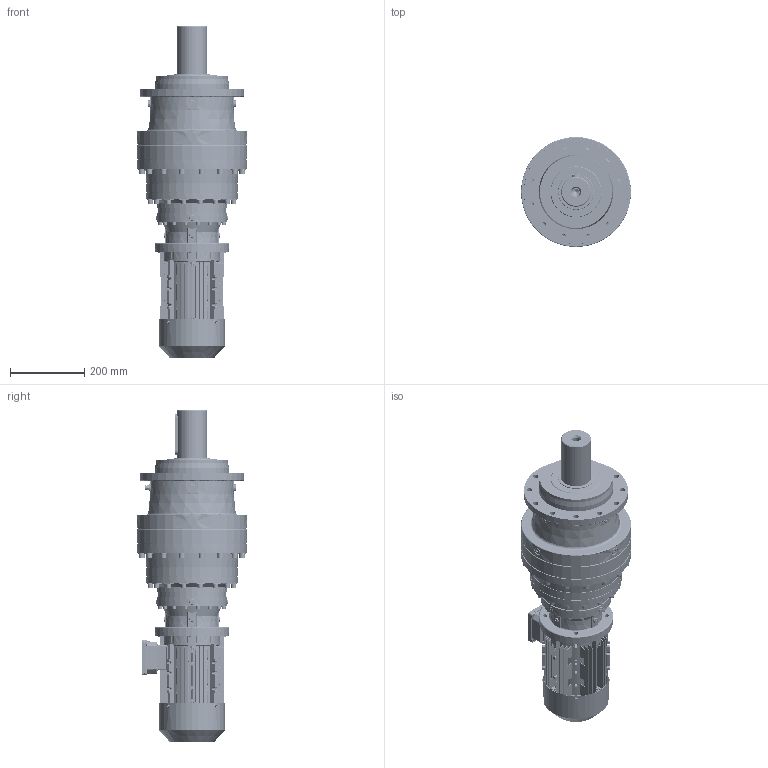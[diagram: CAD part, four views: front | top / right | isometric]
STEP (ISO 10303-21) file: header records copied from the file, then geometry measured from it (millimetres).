
FILE_DESCRIPTION (( 'STEP AP203' ), '1' );
FILE_NAME ('PNL_1903L-MX90L-4.STEP', '2019-05-10T13:20:30', ( '' ), ( '' ), 'SwSTEP 2.0', 'SolidWorks 2012', '' );
FILE_SCHEMA (( 'CONFIG_CONTROL_DESIGN' ));
Products named in the file (30): IE3 90L cable glandsM16_2; IE3 90L  oil seal_2; cross recessed pan head screws gb_GB_CROSS_SCREWS_TYPE1 M5X10-10  H type-N_2; cross recessed pan head screws gb_GB_CROSS_SCREWS_TYPE1 M4X5-5  H type-N_2; plain washers-n series-grade a gb_GB_FASTENER_WASHER_PWNA 4_2; circlips for shaft--type a large gb_GB_CONNECTING_PIECE_RING_RRA 19_2; IE3 90L grouding mark_2; hexagon socket head cap screws gb_GB_FASTENER_SCREWS_HSHCS M6X30-N_2; cross recessed pan head tapping screws gb_GB_CROSS_SCREWS_TYPE128 ST4.2X9.5 H C-N_2; hexagon flange head tapping screws gb_GB_SQUARE_AND_HEXAGON_TYPE137 ST4.2X9.5 F-N_2; IE3 90L flange_2; IE3 90L terminal box_2; IE3 90L terminal box cover_2; plain parallel keys_GB_CONNECTING_PIECE_KEYS_CSK 8X40_2; spring lock washers--normal type gb_GB_FASTENER_WASHER_SW 6_2; IE3 90L fan_2; IE3 90L rotor_2; IE3 90L fan cover_2; EK1903L_Varsayìlan; IE3 90L casing_2; FL5A_Varsayìlan; PNL_1903L_0_0_A09_B5_ML25A_FL5A_0_0_0_0_0_0_0_0_0_0_0_M1; P19_Varsayìlan; 1190B5_Varsayìlan; ML25A_Varsayìlan; MX3-90L_B5; PNL_1903L-MX90L-4; hexagon socket head cap screws gb_GB_FASTENER_SCREWS_HSHCS M6X40-N; hexagon nuts grade c gb_GB_FASTENER_NUT_SNC1 M6-N_2; IE3 90L flangeB5
Assembly tree (58 placements, depth 3):
  PNL_1903L-MX90L-4
    PNL_1903L_0_0_A09_B5_ML25A_FL5A_0_0_0_0_0_0_0_0_0_0_0_M1
      P19_Varsayìlan
      1190B5_Varsayìlan
      ML25A_Varsayìlan
      EK1903L_Varsayìlan
      FL5A_Varsayìlan
    MX3-90L_B5
      IE3 90L casing_2
      IE3 90L rotor_2
      IE3 90L fan_2
      IE3 90L fan cover_2
      plain parallel keys_GB_CONNECTING_PIECE_KEYS_CSK 8X40_2
      IE3 90L terminal box_2
      IE3 90L terminal box cover_2
      spring lock washers--normal type gb_GB_FASTENER_WASHER_SW 6_2  x8
      cross recessed pan head tapping screws gb_GB_CROSS_SCREWS_TYPE128 ST4.2X9.5 H C-N_2  x4
      hexagon flange head tapping screws gb_GB_SQUARE_AND_HEXAGON_TYPE137 ST4.2X9.5 F-N_2  x4
      hexagon socket head cap screws gb_GB_FASTENER_SCREWS_HSHCS M6X30-N_2  x4
      IE3 90L flange_2
      circlips for shaft--type a large gb_GB_CONNECTING_PIECE_RING_RRA 19_2
      IE3 90L grouding mark_2
      plain washers-n series-grade a gb_GB_FASTENER_WASHER_PWNA 4_2
      cross recessed pan head screws gb_GB_CROSS_SCREWS_TYPE1 M4X5-5  H type-N_2
      cross recessed pan head screws gb_GB_CROSS_SCREWS_TYPE1 M5X10-10  H type-N_2  x4
      IE3 90L cable glandsM16_2  x2
      IE3 90L  oil seal_2
      hexagon nuts grade c gb_GB_FASTENER_NUT_SNC1 M6-N_2  x7
      IE3 90L flangeB5
      hexagon socket head cap screws gb_GB_FASTENER_SCREWS_HSHCS M6X40-N  x4
Bounding box: 295 x 295 x 891.5 mm (x, y, z)
Volume: 22415784.7 mm3; surface area: 1855032.9 mm2
Topology: 64 solids, 64 shells, 7047 faces, 18141 edges, 11245 vertices
Faces by surface type: plane 2825, cylinder 2256, bspline 1314, cone 498, sphere 100, torus 54
Entity records: 245331 total; most frequent: CARTESIAN_POINT 93455, ORIENTED_EDGE 32888, DIRECTION 28608, EDGE_CURVE 16444, AXIS2_PLACEMENT_3D 10683, VERTEX_POINT 10321, VECTOR 7242, LINE 7242
